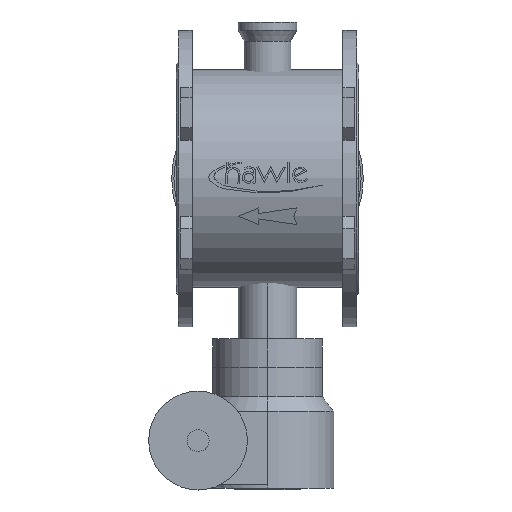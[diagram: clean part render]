
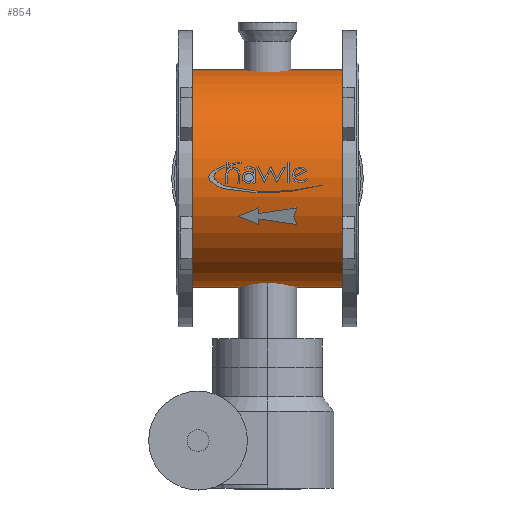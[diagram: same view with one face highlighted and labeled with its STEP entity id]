
A CAD part, top view. The second image highlights one B-rep face of the part: STEP entity #854.
In plain terms, the highlighted cylindrical face has radius 149 mm (diameter 298 mm), a partial arc.
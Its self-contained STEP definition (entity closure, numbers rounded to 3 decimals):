
#854=ADVANCED_FACE('',(#1839),#1840,.T.);
#1839=FACE_OUTER_BOUND('',#3347,.T.);
#1840=CYLINDRICAL_SURFACE('',#3348,149.0);
#3347=EDGE_LOOP('',(#4600,#4601,#4602,#4603));
#3348=AXIS2_PLACEMENT_3D('',#4604,#4605,#4606);
#4600=ORIENTED_EDGE('',*,*,#7750,.T.);
#4601=ORIENTED_EDGE('',*,*,#7751,.T.);
#4602=ORIENTED_EDGE('',*,*,#7752,.T.);
#4603=ORIENTED_EDGE('',*,*,#7753,.T.);
#4604=CARTESIAN_POINT('',(-228.0,0.,0.0));
#4605=DIRECTION('',(1.0,0.,0.0));
#4606=DIRECTION('',(0.,-1.0,0.0));
#7750=EDGE_CURVE('',#9001,#9002,#9003,.T.);
#7751=EDGE_CURVE('',#9002,#9004,#9005,.T.);
#7752=EDGE_CURVE('',#9004,#9006,#9007,.T.);
#7753=EDGE_CURVE('',#9006,#9001,#9008,.T.);
#9001=VERTEX_POINT('',#10790);
#9002=VERTEX_POINT('',#10791);
#9003=LINE('',#10792,#10793);
#9004=VERTEX_POINT('',#10794);
#9005=CIRCLE('',#10795,149.0);
#9006=VERTEX_POINT('',#10796);
#9007=LINE('',#10797,#10798);
#9008=CIRCLE('',#10799,149.0);
#10790=CARTESIAN_POINT('',(-228.0,-149.0,0.0));
#10791=CARTESIAN_POINT('',(-22.0,-149.0,0.0));
#10792=CARTESIAN_POINT('',(-228.0,-149.0,0.));
#10793=VECTOR('',#13150,1.0);
#10794=CARTESIAN_POINT('',(-22.0,149.0,0.));
#10795=AXIS2_PLACEMENT_3D('',#13151,#13152,#13153);
#10796=CARTESIAN_POINT('',(-228.0,149.0,0.));
#10797=CARTESIAN_POINT('',(-228.0,149.0,0.));
#10798=VECTOR('',#13154,1.0);
#10799=AXIS2_PLACEMENT_3D('',#13155,#13156,#13157);
#13150=DIRECTION('',(1.0,0.,0.0));
#13151=CARTESIAN_POINT('',(-22.0,0.,0.0));
#13152=DIRECTION('',(-1.0,0.,0.0));
#13153=DIRECTION('',(0.,-1.0,0.0));
#13154=DIRECTION('',(-1.0,0.,-0.0));
#13155=CARTESIAN_POINT('',(-228.0,0.,0.0));
#13156=DIRECTION('',(1.0,0.,0.0));
#13157=DIRECTION('',(0.,-1.0,0.0));
